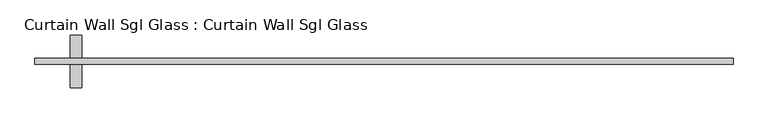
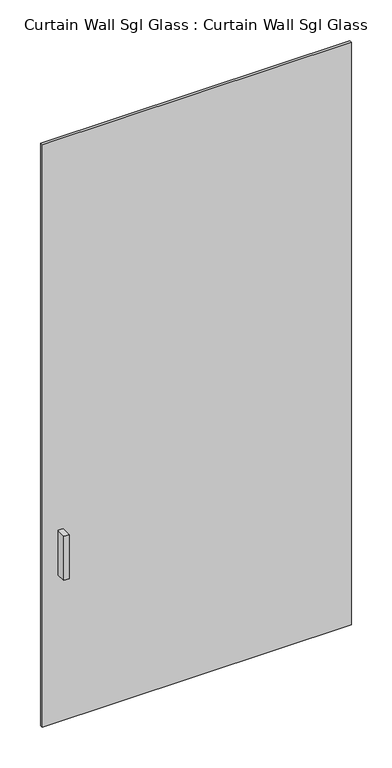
"""IFC4 building model written with IfcOpenShell, lengths in millimetres: plate geometry, Curtain Wall Sgl Glass : Curtain Wall Sgl Glass."""

from ifc_helpers import new_model, si_unit, frame, origin, origin_with_axes, place, context, project, spatial, polyline, outline, extrude, source, transform, mapped, element, save


def curtain_wall_sgl_glass_curtain_wall_sgl_glass_da5bb70a(model_context):
    return source(origin(), model_context, "Body", "SweptSolid", [
        extrude(outline(polyline([(-654.05, 12.7), (-654.05, -38.1), (-679.45, -38.1), (-679.45, 12.7), (-654.05, 12.7)])), frame((0.0, 0.0, 762.0), z_axis=(0.0, 0.0, 1.0), x_axis=(1.0, 0.0, 0.0)), (0.0, 0.0, 1.0), 228.6),
        extrude(outline(polyline([(-679.45, -101.6), (-679.45, -50.8), (-654.05, -50.8), (-654.05, -101.6), (-679.45, -101.6)])), frame((0.0, 0.0, 762.0), z_axis=(0.0, 0.0, 1.0), x_axis=(1.0, 0.0, 0.0)), (0.0, 0.0, 1.0), 228.6),
        extrude(outline(polyline([(755.65, -50.8), (-755.65, -50.8), (-755.65, -38.1), (755.65, -38.1), (755.65, -50.8)])), origin_with_axes(), (0.0, 0.0, 1.0), 3009.9),
    ])


if __name__ == "__main__":
    model = new_model("IFC4")
    model_context = context("Model", 3, world=origin())
    ifc_project = project(units=[si_unit("LENGTHUNIT", "METRE", prefix="MILLI")], contexts=[model_context])
    site = spatial("IfcSite", under=ifc_project)
    building = spatial("IfcBuilding", under=site)
    placement = place(None, origin())
    curtain_wall_sgl_glass_curtain_wall_sgl_glass_shape = curtain_wall_sgl_glass_curtain_wall_sgl_glass_da5bb70a(model_context)
    element("IfcPlate", 1, ObjectType="Curtain Wall Sgl Glass : Curtain Wall Sgl Glass", at=placement, inside=building, context=model_context, shape_type="MappedRepresentation", body=[
        mapped(curtain_wall_sgl_glass_curtain_wall_sgl_glass_shape, transform((0.0, 0.0, 0.0), x_axis=(1.0, 0.0, 0.0), y_axis=(0.0, 1.0, 0.0), z_axis=(0.0, 0.0, 1.0))),
    ])
    save(model, "model.ifc")
